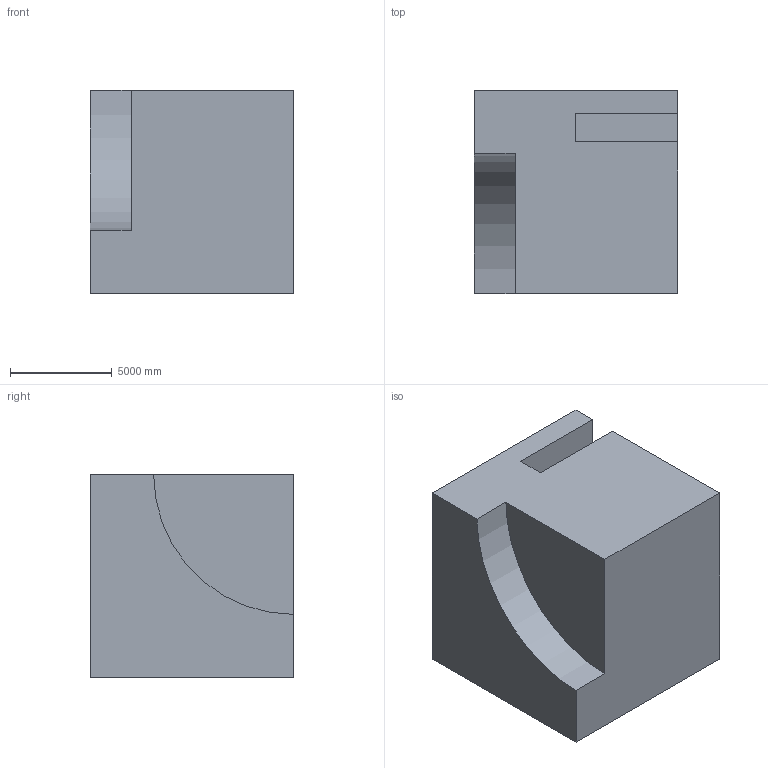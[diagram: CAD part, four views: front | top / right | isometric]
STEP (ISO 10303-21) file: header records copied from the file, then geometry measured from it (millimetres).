
FILE_DESCRIPTION (( 'STEP AP203' ), '1' );
FILE_NAME ('1011.STEP', '2022-08-18T12:24:55', ( 'user' ), ( '' ), 'SwSTEP 2.0', 'SolidWorks 2021', '' );
FILE_SCHEMA (( 'CONFIG_CONTROL_DESIGN' ));
Length unit declared in the file: centimetre
Products named in the file (1): 1011
Bounding box: 10000 x 10000 x 10000 mm (x, y, z)
Volume: 911276162168.1 mm3; surface area: 614133764 mm2
Topology: 1 solids, 1 shells, 12 faces, 30 edges, 20 vertices
Faces by surface type: plane 11, cylinder 1
Entity records: 433 total; most frequent: CARTESIAN_POINT 63, ORIENTED_EDGE 60, DIRECTION 58, EDGE_CURVE 30, LINE 28, VECTOR 28, VERTEX_POINT 20, AXIS2_PLACEMENT_3D 15
